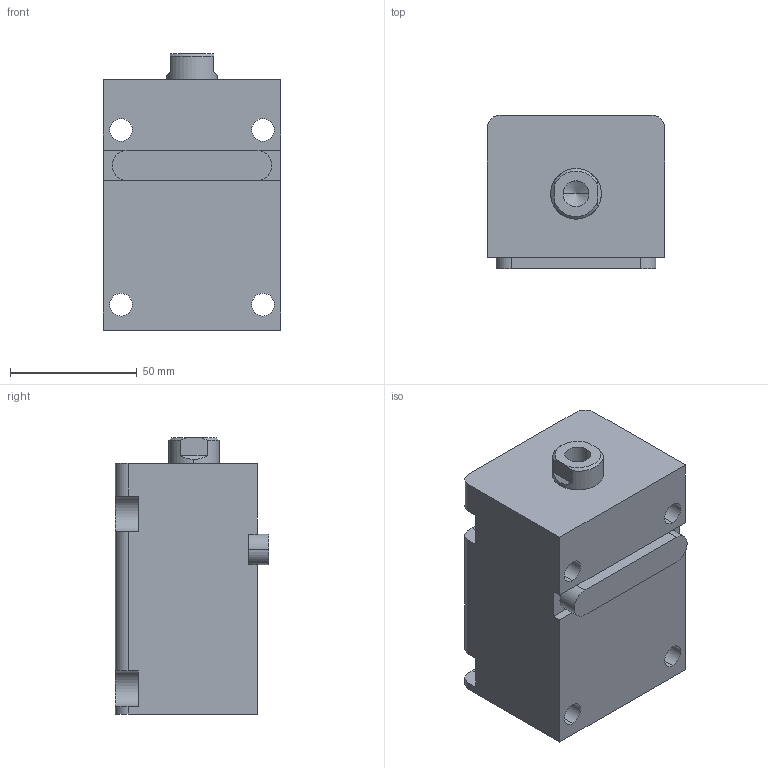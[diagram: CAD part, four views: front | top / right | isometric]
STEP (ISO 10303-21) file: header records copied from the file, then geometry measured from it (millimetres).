
FILE_DESCRIPTION (( 'STEP AP203' ), '1' );
FILE_NAME ('HTB-LA32-45N.STEP', '2019-10-09T06:28:08', ( '微软用户' ), ( '微软中国' ), 'SwSTEP 2.0', 'SolidWorks 2012', '' );
FILE_SCHEMA (( 'CONFIG_CONTROL_DESIGN' ));
Length unit declared in the file: millimetre
Products named in the file (4): HTB-LA32-45掛极; HTB-LA32-45N活塞杆; HTB-LA32-瑩; HTB-LA32-45N
Assembly tree (3 placements, depth 2):
  HTB-LA32-45N
    HTB-LA32-45掛极
    HTB-LA32-45N活塞杆
    HTB-LA32-瑩
Bounding box: 70 x 60.5 x 109 mm (x, y, z)
Volume: 349510.8 mm3; surface area: 59497.8 mm2
Topology: 3 solids, 3 shells, 88 faces, 217 edges, 141 vertices
Faces by surface type: plane 39, cylinder 35, cone 8, torus 6
Entity records: 3053 total; most frequent: DIRECTION 487, CARTESIAN_POINT 478, ORIENTED_EDGE 430, EDGE_CURVE 215, AXIS2_PLACEMENT_3D 186, VERTEX_POINT 141, LINE 115, VECTOR 115
